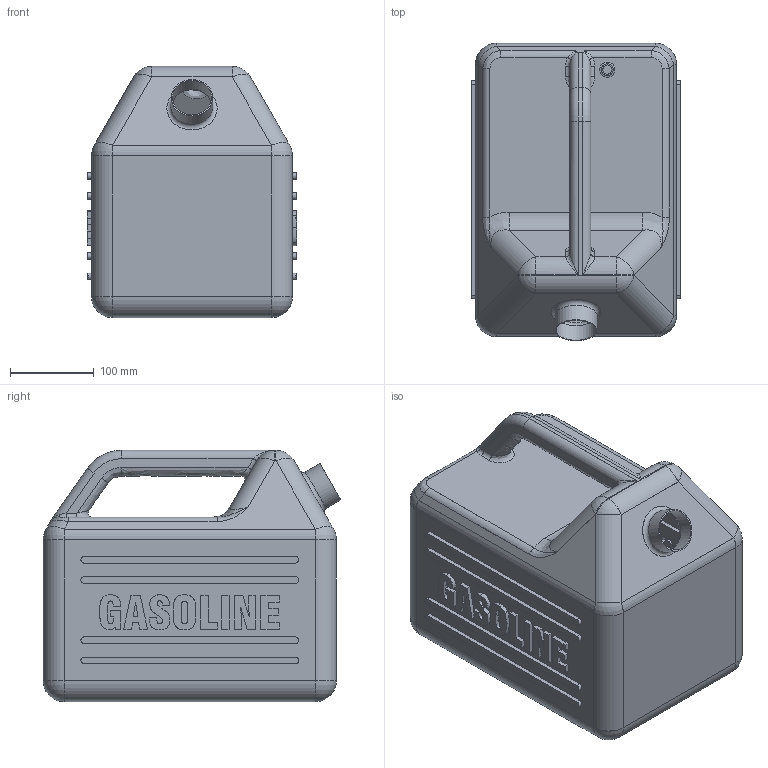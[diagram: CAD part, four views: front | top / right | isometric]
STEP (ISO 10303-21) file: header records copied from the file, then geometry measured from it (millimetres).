
FILE_DESCRIPTION((''),'2;1');
FILE_NAME('C:\My Documents\B2 Design\Skill Builders\Measured Volume\Models\Gas can.stp','2010-03-30T14:37:50',('boganb'),(''),'Autodesk Inventor 2011','Autodesk Inventor 2011','');
FILE_SCHEMA(('AUTOMOTIVE_DESIGN { 1 0 10303 214 1 1 1 1 }'));
Length unit declared in the file: millimetre
Products named in the file (1): Gas can
Bounding box: 250 x 355.28 x 300 mm (x, y, z)
Volume: 698970.2 mm3; surface area: 932054.1 mm2
Topology: 1 solids, 1 shells, 716 faces, 1854 edges, 1172 vertices
Faces by surface type: plane 356, bspline 218, cylinder 110, sphere 24, torus 8
Full cylindrical faces by diameter (mm): 11 x1, 14 x1, 47 x1, 50 x1
Entity records: 26832 total; most frequent: CARTESIAN_POINT 10834, ORIENTED_EDGE 3644, DIRECTION 2612, EDGE_CURVE 1822, VERTEX_POINT 1172, VECTOR 1134, LINE 1134, EDGE_LOOP 786
